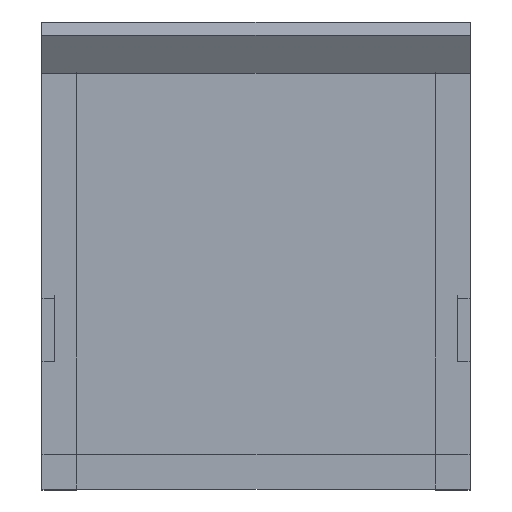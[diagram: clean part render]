
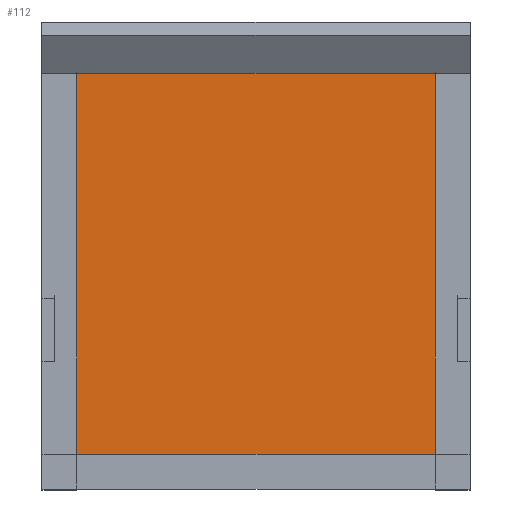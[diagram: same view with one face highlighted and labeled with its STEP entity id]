
A CAD part, top view. The second image highlights one B-rep face of the part: STEP entity #112.
In plain terms, the highlighted planar face has unit normal (0, 0, 1).
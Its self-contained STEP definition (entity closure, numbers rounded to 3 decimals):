
#112=ADVANCED_FACE('',(#212),#1474,.T.);
#212=FACE_OUTER_BOUND('',#312,.T.);
#312=EDGE_LOOP('',(#676,#677,#678,#679));
#676=ORIENTED_EDGE('',*,*,#964,.F.);
#677=ORIENTED_EDGE('',*,*,#961,.F.);
#678=ORIENTED_EDGE('',*,*,#958,.F.);
#679=ORIENTED_EDGE('',*,*,#954,.F.);
#954=EDGE_CURVE('',#1356,#1357,#1182,.T.);
#958=EDGE_CURVE('',#1357,#1360,#1186,.T.);
#961=EDGE_CURVE('',#1360,#1362,#1189,.T.);
#964=EDGE_CURVE('',#1362,#1356,#1192,.T.);
#1182=B_SPLINE_CURVE_WITH_KNOTS('',1,(#2301,#2302),.UNSPECIFIED.,.F.,.F.,
(2,2),(-1312.,-994.),.UNSPECIFIED.);
#1186=B_SPLINE_CURVE_WITH_KNOTS('',1,(#2309,#2310),.UNSPECIFIED.,.F.,.F.,
(2,2),(-994.,-656.),.UNSPECIFIED.);
#1189=B_SPLINE_CURVE_WITH_KNOTS('',1,(#2315,#2316),.UNSPECIFIED.,.F.,.F.,
(2,2),(-656.,-338.),.UNSPECIFIED.);
#1192=B_SPLINE_CURVE_WITH_KNOTS('',1,(#2321,#2322),.UNSPECIFIED.,.F.,.F.,
(2,2),(-338.,0.),.UNSPECIFIED.);
#1356=VERTEX_POINT('',#2293);
#1357=VERTEX_POINT('',#2294);
#1360=VERTEX_POINT('',#2297);
#1362=VERTEX_POINT('',#2299);
#1474=PLANE('',#1659);
#1659=AXIS2_PLACEMENT_3D('',#2291,#1759,$);
#1759=DIRECTION('',(0.,0.,1.));
#2291=CARTESIAN_POINT('',(-159.,-176.035,451.575));
#2293=CARTESIAN_POINT('',(-159.,161.965,451.575));
#2294=CARTESIAN_POINT('',(159.,161.965,451.575));
#2297=CARTESIAN_POINT('',(159.,-176.035,451.575));
#2299=CARTESIAN_POINT('',(-159.,-176.035,451.575));
#2301=CARTESIAN_POINT('',(-159.,161.965,451.575));
#2302=CARTESIAN_POINT('',(159.,161.965,451.575));
#2309=CARTESIAN_POINT('',(159.,161.965,451.575));
#2310=CARTESIAN_POINT('',(159.,-176.035,451.575));
#2315=CARTESIAN_POINT('',(159.,-176.035,451.575));
#2316=CARTESIAN_POINT('',(-159.,-176.035,451.575));
#2321=CARTESIAN_POINT('',(-159.,-176.035,451.575));
#2322=CARTESIAN_POINT('',(-159.,161.965,451.575));
